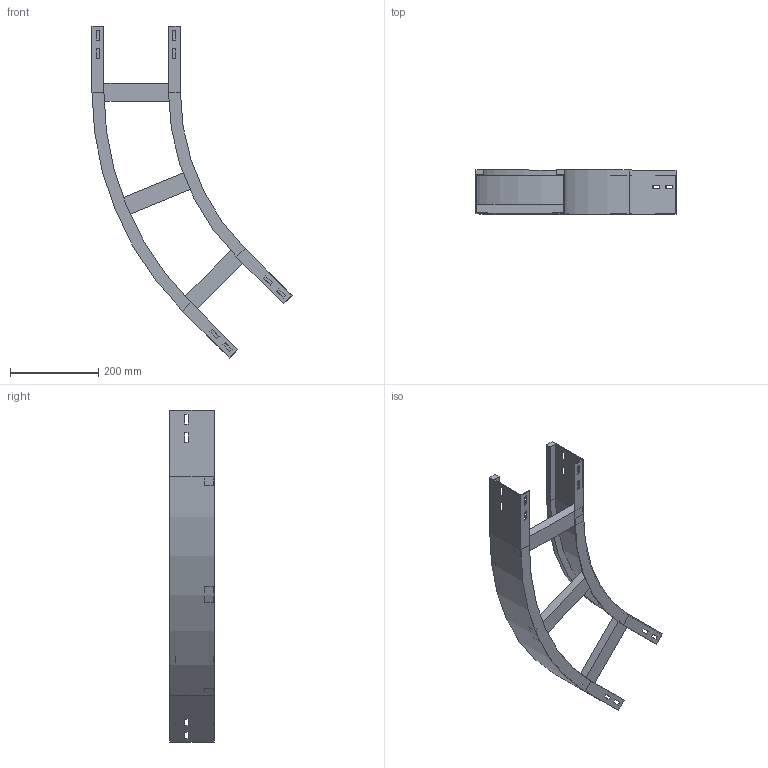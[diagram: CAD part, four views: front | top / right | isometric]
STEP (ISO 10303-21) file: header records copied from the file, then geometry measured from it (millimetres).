
FILE_DESCRIPTION (( 'STEP AP214' ), '1' );
FILE_NAME ('11B5D200.step', '2025-02-21T15:11:41', ( '' ), ( '' ), 'SwSTEP 2.0', 'SolidWorks 2023', '' );
FILE_SCHEMA (( 'AUTOMOTIVE_DESIGN' ));
Length unit declared in the file: millimetre
Products named in the file (4): TRAVERSINO_200; A2_LONGH.INTERNO 45°_H100_R500; A2_LONGH.ESTERNO 45°_H100_R500+200; 11B5D200
Assembly tree (5 placements, depth 2):
  11B5D200
    A2_LONGH.INTERNO 45°_H100_R500
    A2_LONGH.ESTERNO 45°_H100_R500+200
    TRAVERSINO_200  x3
Bounding box: 452.51 x 100 x 751.04 mm (x, y, z)
Volume: 1153127.2 mm3; surface area: 515852.6 mm2
Topology: 5 solids, 5 shells, 134 faces, 340 edges, 216 vertices
Faces by surface type: plane 126, cylinder 8
Entity records: 3821 total; most frequent: CARTESIAN_POINT 646, ORIENTED_EDGE 632, DIRECTION 592, EDGE_CURVE 316, VECTOR 300, LINE 300, VERTEX_POINT 200, EDGE_LOOP 154
